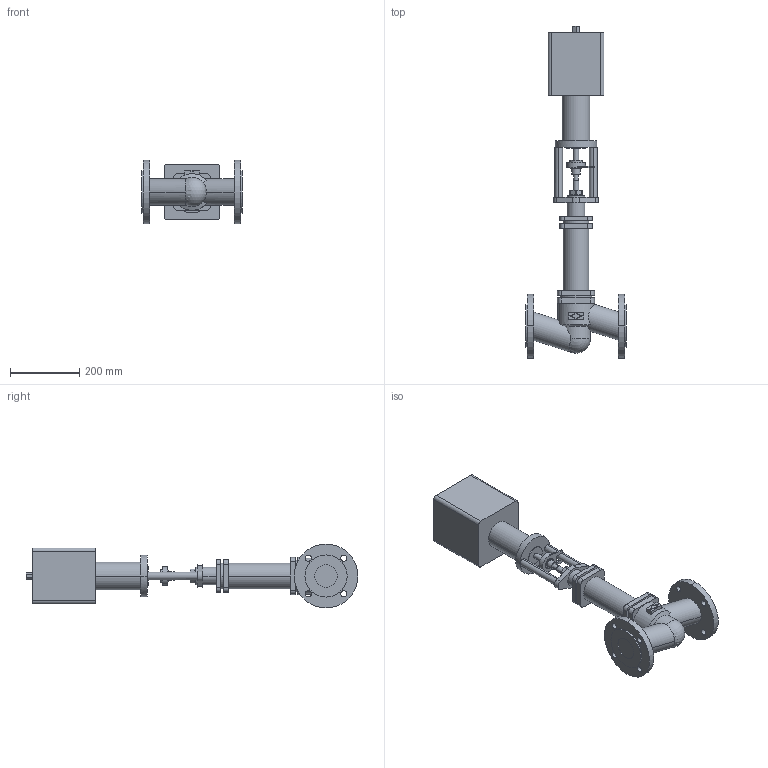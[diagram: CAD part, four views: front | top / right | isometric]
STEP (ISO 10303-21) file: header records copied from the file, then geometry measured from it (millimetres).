
FILE_DESCRIPTION( ( '' ), '1' );
FILE_NAME( 'F:/DE-SHS/TB/OR/04-Sonstiges/daten/files_3d/441-FR2.2/441-PN16-FR2_2/c000004551.stp', '2014-11-06T11:22:18', ( '' ), ( '' ), ' ', ' ', ' ' );
FILE_SCHEMA( ( 'CONFIG_CONTROL_DESIGN' ) );
Length unit declared in the file: millimetre
Products named in the file (2): 1; 2
Bounding box: 290 x 961 x 185 mm (x, y, z)
Volume: 10279983.5 mm3; surface area: 592470.6 mm2
Topology: 2 solids, 2 shells, 202 faces, 497 edges, 329 vertices
Faces by surface type: cylinder 102, plane 97, cone 2, sphere 1
Entity records: 6655 total; most frequent: CARTESIAN_POINT 1560, DIRECTION 1105, ORIENTED_EDGE 990, EDGE_CURVE 495, AXIS2_PLACEMENT_3D 420, VERTEX_POINT 329, LINE 265, VECTOR 265
